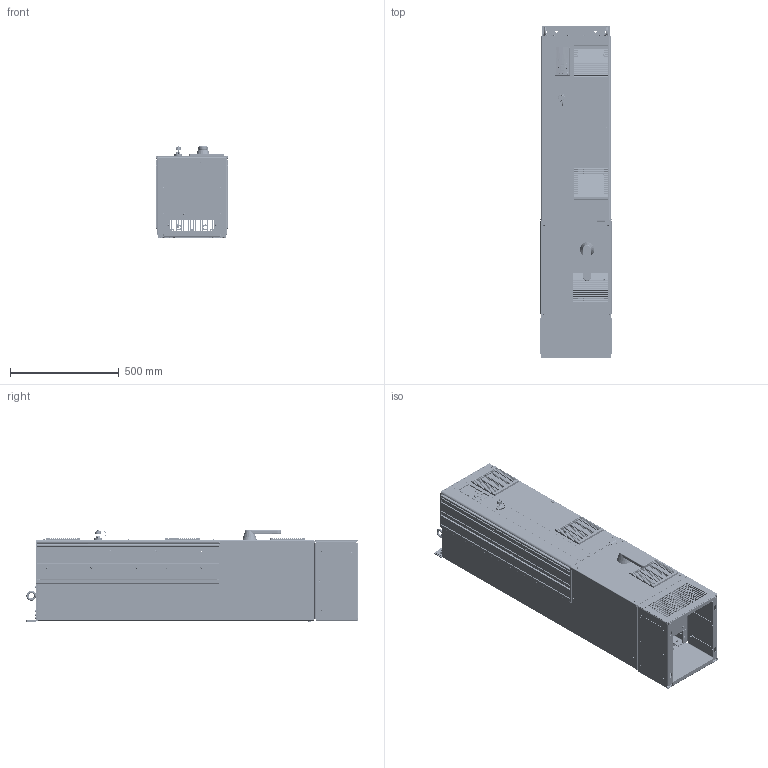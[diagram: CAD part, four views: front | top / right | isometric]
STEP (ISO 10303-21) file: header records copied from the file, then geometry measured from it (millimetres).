
FILE_DESCRIPTION((''),'2;1');
FILE_NAME('P454-1038_ASM','2014-08-05T',('U251643'),('Danfoss Power Electronics'),'PRO/ENGINEER BY PARAMETRIC TECHNOLOGY CORPORATION, 2013050','PRO/ENGINEER BY PARAMETRIC TECHNOLOGY CORPORATION, 2013050','');
FILE_SCHEMA(('CONFIG_CONTROL_DESIGN','GEOMETRIC_VALIDATION_PROPERTIES_MIM'));
Products named in the file (203): 177G6031; FH-M5-12-ZI; FH-M8-20-ZI; SS-M5-2-ZI; S-M10-1-ZI; 177G6031_ASM; 177G6087; FH-M5-10-ZI; TPS-5MM-10; 177G6087_ASM; 177G5921; 177G5938; 177G6051; PEM_N10-M5-1-ZI; 177G6051_ASM; 26513; P454-1189_ASM; 177G6032; HFH-M10-20-ZI; 177G6032_ASM; 177G6028; SS-M5-1-ZI; 177G6028_ASM; 177G6029; 177G6029_ASM; SF-5-16-ZI; 177G6033_ASM; 177G5924; 681X9143; 26516; 177G6007; 177G6007_ASM; 177G5923; 177G4180; 177G4180_ASM; 177G6011; FH-M8-25-ZI; 177G6011_ASM; 177G6072; 177G6072_ASM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
Assembly tree (695 placements, depth 6):
  P454-1038_ASM
    177G6031_ASM
      177G6031
      FH-M5-12-ZI  x19
      FH-M8-20-ZI  x2
      SS-M5-2-ZI  x22
      S-M10-1-ZI  x2
    P454-1189_ASM
      177G6087_ASM
        177G6087
        FH-M5-10-ZI  x2
        SS-M5-2-ZI  x2
        TPS-5MM-10  x2
      177G5921
      177G5938
      177G6051_ASM
        177G6051
        PEM_N10-M5-1-ZI
      26513  x2
    26513  x36
    177G6033_ASM
      177G6032_ASM
        177G6032
        FH-M5-10-ZI  x11
        SS-M5-2-ZI  x6
        HFH-M10-20-ZI  x3
      177G6028_ASM
        177G6028
        SS-M5-1-ZI
      177G6029_ASM
        177G6029
        SS-M5-1-ZI
      SF-5-16-ZI  x4
    177G5924  x2
    681X9143  x35
    26516  x5
    177G6007_ASM
      177G6007
    177G5923
    177G4180_ASM
      177G4180
    177G6011_ASM  x2
      177G6011
      FH-M8-25-ZI
    177G6072_ASM
      177G6072
      FH-M8-25-ZI
    177A0061
    177G6003_ASM
      177G6003
      FH-M8-15-ZI  x2
    177G4265
    177A0064
    177A0076
    177G6002_ASM  x2
      177G6002
      FH-M8-25-ZI
    P454-1135_ASM
      177G6067_ASM
        177G6068_ASM
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Bounding box: 329.6 x 1525.4 x 421.29 mm (x, y, z)
Volume: 14710716.5 mm3; surface area: 10351821.1 mm2
Topology: 659 solids, 712 shells, 35402 faces, 92324 edges, 59061 vertices
Faces by surface type: plane 21003, cylinder 8406, bspline 2548, cone 1651, torus 1413, sphere 225, revolution 124, extrusion 32
Entity records: 858687 total; most frequent: CARTESIAN_POINT 213733, ORIENTED_EDGE 109032, DIRECTION 100667, EDGE_CURVE 54999, VECTOR 38321, LINE 38289, PRESENTATION_STYLE_ASSIGNMENT 38013, STYLED_ITEM 37877
